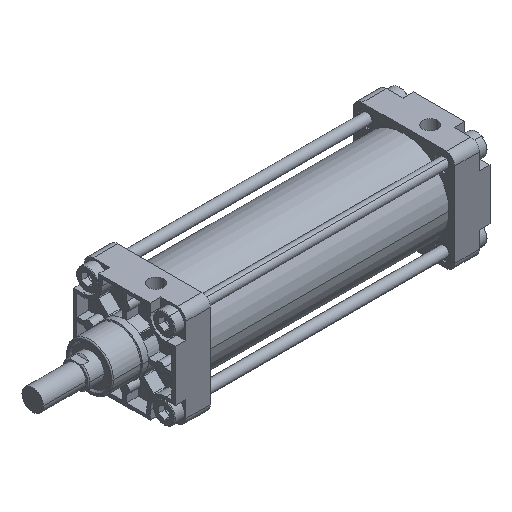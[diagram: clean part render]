
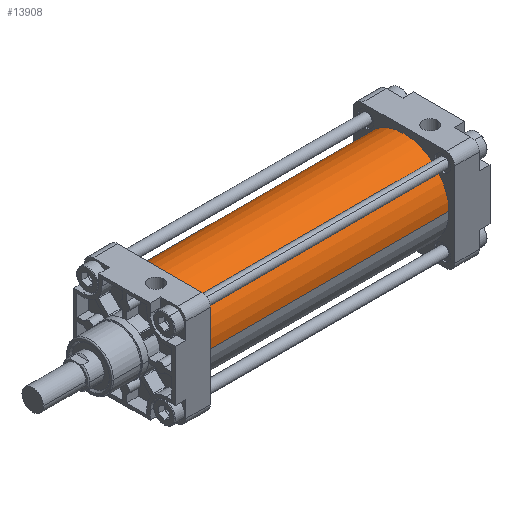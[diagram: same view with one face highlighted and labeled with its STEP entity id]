
A CAD part, isometric view. The second image highlights one B-rep face of the part: STEP entity #13908.
In plain terms, the highlighted cylindrical face has radius 42 mm (diameter 84 mm), a partial arc.
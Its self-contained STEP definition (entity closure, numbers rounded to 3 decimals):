
#13151=CARTESIAN_POINT('Vertex',(229.,-42.,0.)) ;
#13153=CARTESIAN_POINT('Vertex',(229.,42.,0.)) ;
#13156=CARTESIAN_POINT('Axis2P3D Location',(229.,0.,0.)) ;
#13866=CARTESIAN_POINT('Axis2P3D Location',(114.5,0.,0.)) ;
#13871=CARTESIAN_POINT('Line Origine',(114.5,-42.,0.)) ;
#13875=CARTESIAN_POINT('Vertex',(0.,-42.,0.)) ;
#13882=CARTESIAN_POINT('Vertex',(0.,42.,0.)) ;
#13885=CARTESIAN_POINT('Line Origine',(114.5,42.,0.)) ;
#13897=CARTESIAN_POINT('Axis2P3D Location',(0.,0.,0.)) ;
#13157=DIRECTION('Axis2P3D Direction',(1.,0.,0.)) ;
#13867=DIRECTION('Axis2P3D Direction',(1.,0.,0.)) ;
#13868=DIRECTION('Axis2P3D XDirection',(0.,1.,0.)) ;
#13872=DIRECTION('Vector Direction',(1.,0.,0.)) ;
#13886=DIRECTION('Vector Direction',(1.,0.,0.)) ;
#13898=DIRECTION('Axis2P3D Direction',(1.,0.,0.)) ;
#13158=AXIS2_PLACEMENT_3D('Circle Axis2P3D',#13156,#13157,$) ;
#13869=AXIS2_PLACEMENT_3D('Cylinder Axis2P3D',#13866,#13867,#13868) ;
#13899=AXIS2_PLACEMENT_3D('Circle Axis2P3D',#13897,#13898,$) ;
#13903=ORIENTED_EDGE('',*,*,#13889,.F.) ;
#13904=ORIENTED_EDGE('',*,*,#13901,.T.) ;
#13905=ORIENTED_EDGE('',*,*,#13877,.T.) ;
#13906=ORIENTED_EDGE('',*,*,#13160,.F.) ;
#13873=VECTOR('Line Direction',#13872,1.) ;
#13887=VECTOR('Line Direction',#13886,1.) ;
#13908=ADVANCED_FACE('PartBody',(#13907),#13870,.T.) ;
#13159=CIRCLE('generated circle',#13158,42.) ;
#13900=CIRCLE('generated circle',#13899,42.) ;
#13870=CYLINDRICAL_SURFACE('generated cylinder',#13869,42.) ;
#13160=EDGE_CURVE('',#13154,#13152,#13159,.T.) ;
#13877=EDGE_CURVE('',#13876,#13152,#13874,.T.) ;
#13889=EDGE_CURVE('',#13883,#13154,#13888,.T.) ;
#13901=EDGE_CURVE('',#13883,#13876,#13900,.T.) ;
#13902=EDGE_LOOP('',(#13903,#13904,#13905,#13906)) ;
#13907=FACE_OUTER_BOUND('',#13902,.T.) ;
#13874=LINE('Line',#13871,#13873) ;
#13888=LINE('Line',#13885,#13887) ;
#13152=VERTEX_POINT('',#13151) ;
#13154=VERTEX_POINT('',#13153) ;
#13876=VERTEX_POINT('',#13875) ;
#13883=VERTEX_POINT('',#13882) ;
